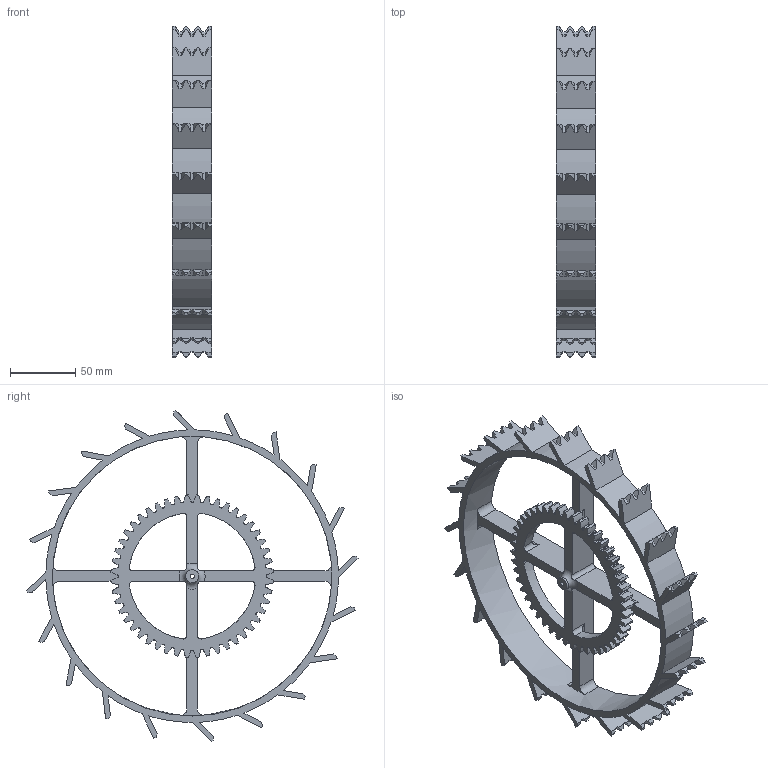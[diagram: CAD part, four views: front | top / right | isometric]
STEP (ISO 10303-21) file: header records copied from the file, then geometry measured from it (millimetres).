
FILE_DESCRIPTION(/* description */ ('STEP AP242 Edition 2','CAx-IF Rec.Pracs.---Representation and Presentation of Product Manufacturing Information (PMI)---4.0---2014-10-13','CAx-IF Rec.Pracs.---3D Tessellated Geometry---0.4---2014-09-14','2;1','CAx-IF Rec.Pracs.---User Defined Attributes---1.5---2016-08-15'),/* implementation_level */ '2;1');
FILE_NAME(/* name */ 'Part Studio 1 - Wheel',/* time_stamp */ '2026-04-09T20:19:25Z',/* author */ (''),/* organization */ (''),/* preprocessor_version */ 'ST-DEVELOPER v20',/* originating_system */ 'ONSHAPE BY PTC INC, 1.213',/* authorisation */ ' ');
FILE_SCHEMA (('AP242_MANAGED_MODEL_BASED_3D_ENGINEERING_MIM_LF { 1 0 10303 442 3 1 4 }'));
Length unit declared in the file: metre
Products named in the file (1): Wheel
Bounding box: 30 x 255.22 x 254.98 mm (x, y, z)
Volume: 241222.2 mm3; surface area: 108934.5 mm2
Topology: 1 solids, 1 shells, 748 faces, 2267 edges, 1511 vertices
Faces by surface type: cylinder 308, plane 222, cone 120, bspline 96, torus 1, sphere 1
Full cylindrical faces by diameter (mm): 3.3 x1, 10 x1, 215 x1
Entity records: 29766 total; most frequent: CARTESIAN_POINT 10596, ORIENTED_EDGE 4522, DIRECTION 3403, EDGE_CURVE 2261, VERTEX_POINT 1509, AXIS2_PLACEMENT_3D 1231, LINE 941, VECTOR 941
